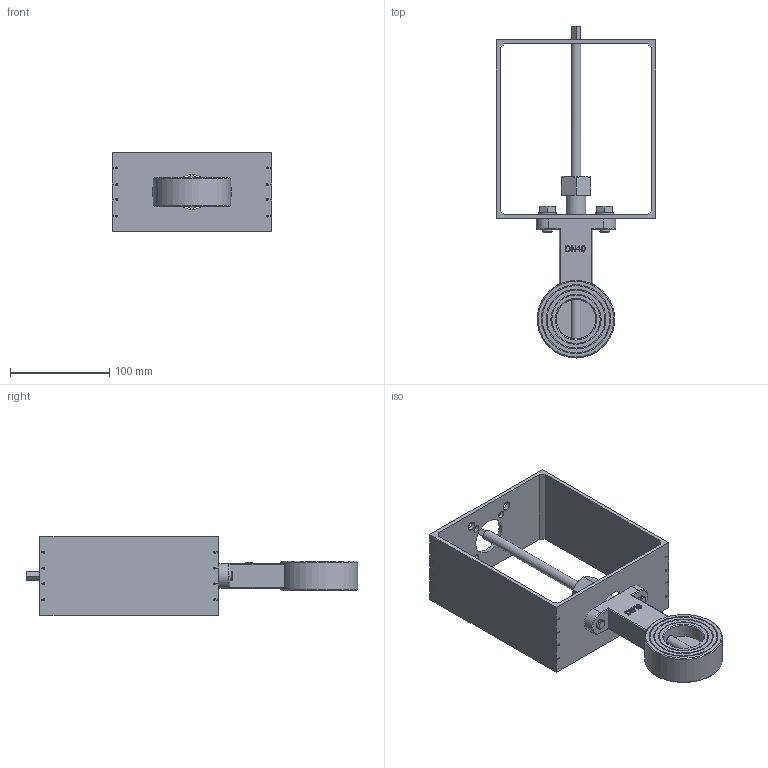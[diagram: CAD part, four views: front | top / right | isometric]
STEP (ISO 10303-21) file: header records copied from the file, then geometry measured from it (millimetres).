
FILE_DESCRIPTION(/* description */ (''),/* implementation_level */ '2;1');
FILE_NAME(/* name */ 'C:\Users\miv\Desktop\Typ 5k DN40.stp',/* time_stamp */ '2018-02-27T15:08:34+01:00',/* author */ ('Technik-3D'),/* organization */ (''),/* preprocessor_version */ 'ST-DEVELOPER v16.1',/* originating_system */ 'Autodesk Inventor 2016',/* authorisation */ '');
FILE_SCHEMA (('AUTOMOTIVE_DESIGN { 1 0 10303 214 3 1 1 }'));
Length unit declared in the file: centimetre
Products named in the file (1): Typ 5k DN40
Bounding box: 160 x 334 x 80 mm (x, y, z)
Volume: 414189.9 mm3; surface area: 160509.4 mm2
Topology: 1 solids, 2 shells, 375 faces, 943 edges, 604 vertices
Faces by surface type: plane 234, cylinder 89, cone 30, bspline 20, torus 2
Full cylindrical faces by diameter (mm): 7 x4, 9 x4, 10 x6, 10.3 x1, 10.5 x2, 11 x3, 12.7 x1, 13 x1, 14.63 x2, 16 x1, 20 x1, 35 x1, 37 x1, 39.5 x1, 40 x1, 48.5 x2, 50.5 x2, 58 x2, 60 x2, 67.5 x2, 69.5 x2, 78 x1
Entity records: 11264 total; most frequent: CARTESIAN_POINT 2228, DIRECTION 1748, ORIENTED_EDGE 1708, EDGE_CURVE 854, AXIS2_PLACEMENT_3D 614, VERTEX_POINT 576, LINE 520, VECTOR 520
